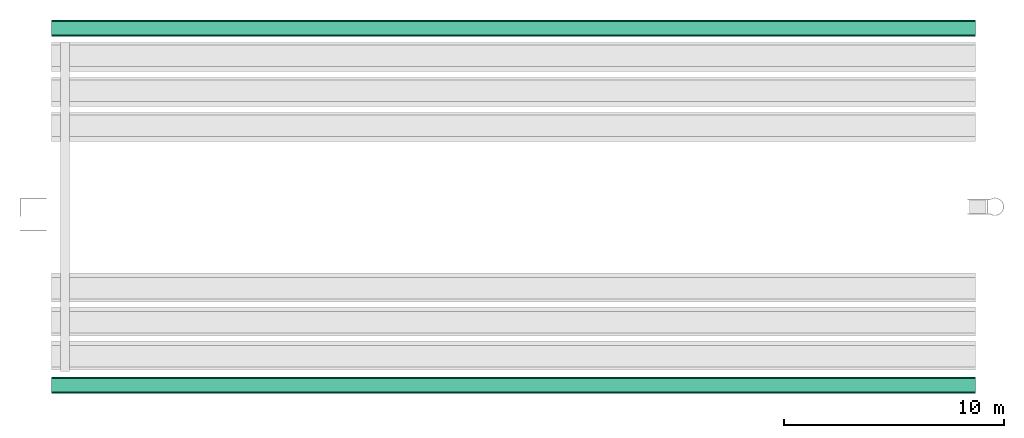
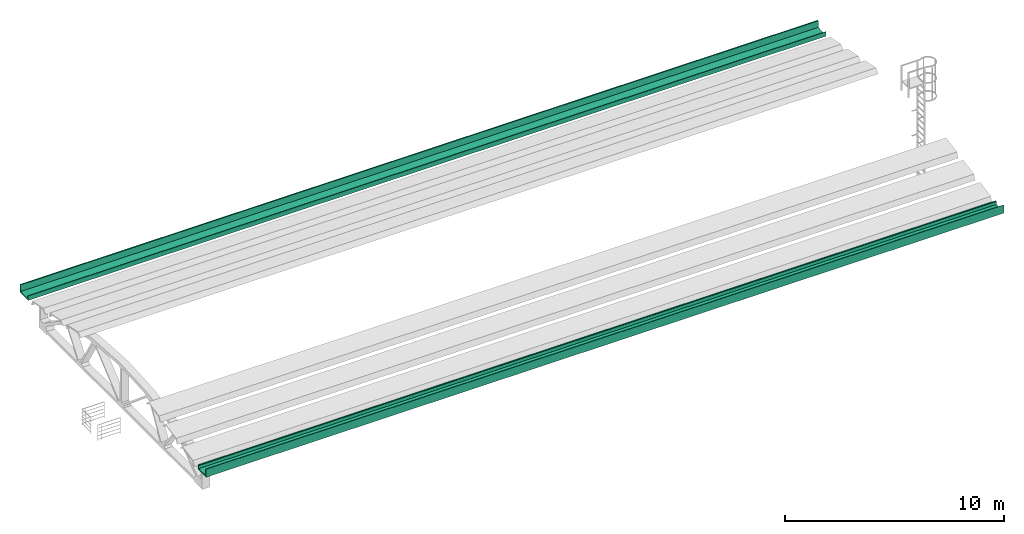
# One storey, part 2 of 3: 1 flow segment.
"""IFC2X3 building model written with IfcOpenShell, lengths in millimetres."""

from ifc_helpers import new_model, entity, si_unit, converted_unit, derived_unit, direction, frame, frame_2d, origin, place, context, subcontext, project, spatial, polyline, circle_curve, parameter, trimmed, segment, composite_curve, outline, extrude, source, transform, mapped, type_object, type_shapes, element, save


model = new_model("IFC2X3")

# Units and contexts
model_context = context("Model", 3, precision=0.01, world=origin(), true_north=direction((6.12303176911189e-17, 1.0)))
body_context = subcontext(model_context, "Body", "Model", "MODEL_VIEW")
ifc_project = project(units=[si_unit("LENGTHUNIT", "METRE", prefix="MILLI"), si_unit("AREAUNIT", "SQUARE_METRE"), si_unit("VOLUMEUNIT", "CUBIC_METRE"), converted_unit("PLANEANGLEUNIT", "DEGREE", entity("IfcRatioMeasure", 0.0174532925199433), si_unit("PLANEANGLEUNIT", "RADIAN"), dimensions=[0, 0, 0, 0, 0, 0, 0]), si_unit("MASSUNIT", "GRAM", prefix="KILO"), derived_unit("MASSDENSITYUNIT", [(si_unit("MASSUNIT", "GRAM", prefix="KILO"), 1), (si_unit("LENGTHUNIT", "METRE"), -3)]), si_unit("TIMEUNIT", "SECOND"), si_unit("FREQUENCYUNIT", "HERTZ"), si_unit("THERMODYNAMICTEMPERATUREUNIT", "DEGREE_CELSIUS"), derived_unit("THERMALTRANSMITTANCEUNIT", [(si_unit("MASSUNIT", "GRAM", prefix="KILO"), 1), (si_unit("THERMODYNAMICTEMPERATUREUNIT", "KELVIN"), -1), (si_unit("TIMEUNIT", "SECOND"), -3)]), derived_unit("VOLUMETRICFLOWRATEUNIT", [(si_unit("LENGTHUNIT", "METRE"), 3), (si_unit("TIMEUNIT", "SECOND"), -1)]), si_unit("ELECTRICCURRENTUNIT", "AMPERE"), si_unit("ELECTRICVOLTAGEUNIT", "VOLT"), si_unit("POWERUNIT", "WATT"), si_unit("FORCEUNIT", "NEWTON", prefix="KILO"), si_unit("ILLUMINANCEUNIT", "LUX"), si_unit("LUMINOUSFLUXUNIT", "LUMEN"), si_unit("LUMINOUSINTENSITYUNIT", "CANDELA"), derived_unit("USERDEFINED", [(si_unit("MASSUNIT", "GRAM", prefix="KILO"), -1), (si_unit("LENGTHUNIT", "METRE"), -2), (si_unit("TIMEUNIT", "SECOND"), 3), (si_unit("LUMINOUSFLUXUNIT", "LUMEN"), 1)]), derived_unit("LINEARVELOCITYUNIT", [(si_unit("LENGTHUNIT", "METRE"), 1), (si_unit("TIMEUNIT", "SECOND"), -1)]), si_unit("PRESSUREUNIT", "PASCAL"), derived_unit("USERDEFINED", [(si_unit("LENGTHUNIT", "METRE"), -2), (si_unit("MASSUNIT", "GRAM", prefix="KILO"), 1), (si_unit("TIMEUNIT", "SECOND"), -2)])], contexts=[model_context])

# Site, building, storey
site_placement = place(None, origin())
site = spatial("IfcSite", under=ifc_project, at=site_placement, Name="表面", CompositionType="ELEMENT")
building_placement = place(site_placement, origin())
building = spatial("IfcBuilding", under=site, at=building_placement, CompositionType="ELEMENT")
storey_placement = place(building_placement, frame((0.0, 0.0, 8500.0)))
storey = spatial("IfcBuildingStorey", under=building, at=storey_placement, Name="8.500(标顶)", CompositionType="ELEMENT", Elevation=8500.0)

# Flow segment
pipe_segment_type = type_object("IfcPipeSegmentType", Name="檐沟:檐槽", PredefinedType="GUTTER")
shared_shape = source(origin(), body_context, "Body", "SweptSolid", [
    extrude(outline(composite_curve([segment(polyline([(-374.545454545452, -202.272727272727), (375.45454545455, -202.272727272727)]), True, "CONTINUOUS"), segment(polyline([(375.45454545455, -202.272727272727), (375.45454545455, 247.727272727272)]), True, "CONTINUOUS"), segment(polyline([(375.45454545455, 247.727272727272), (365.45454545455, 247.727272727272)]), True, "CONTINUOUS"), segment(trimmed(circle_curve(frame_2d((365.45454545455, 212.727272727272), x_axis=(-1.0, 0.0)), 35.0), [parameter(270.0)], [parameter(0.0)], True, "PARAMETER"), True, "CONTINUOUS"), segment(polyline([(330.454545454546, 212.727272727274), (300.454545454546, -112.272727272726)]), True, "CONTINUOUS"), segment(polyline([(300.454545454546, -112.272727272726), (-9.54545454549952, -152.272727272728)]), True, "CONTINUOUS"), segment(polyline([(-9.54545454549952, -152.27272727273), (-299.545454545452, -132.27272727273)]), True, "CONTINUOUS"), segment(polyline([(-299.545454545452, -132.272727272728), (-319.545454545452, -2.27272727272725)]), True, "CONTINUOUS"), segment(trimmed(circle_curve(frame_2d((-369.545454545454, -2.27272727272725), x_axis=(-1.0, 0.0)), 50.0), [parameter(180.0)], [parameter(270.0)], True, "PARAMETER"), True, "CONTINUOUS"), segment(polyline([(-369.545454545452, 47.7272727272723), (-374.545454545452, 47.7272727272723)]), True, "CONTINUOUS"), segment(polyline([(-374.545454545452, 47.7272727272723), (-374.545454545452, -202.272727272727)]), True, "CONTINUOUS")], self_intersect=False)), frame((-32028.798781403, 16224.2428619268, 1669.59076581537), z_axis=(1.0, 0.0, 0.0), x_axis=(0.0, 1.0, 0.0)), (0.0, 0.0, 1.0), 42000.0),
    extrude(outline(composite_curve([segment(polyline([(-202.272727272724, -374.545454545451), (47.7272727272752, -374.545454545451)]), True, "CONTINUOUS"), segment(polyline([(47.7272727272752, -374.545454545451), (47.7272727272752, -369.545454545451)]), True, "CONTINUOUS"), segment(trimmed(circle_curve(frame_2d((-2.27272727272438, -369.545454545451), x_axis=(0.0, -1.0)), 50.0), [parameter(90.0000000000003)], [parameter(180.0)], True, "PARAMETER"), True, "CONTINUOUS"), segment(polyline([(-2.27272727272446, -319.545454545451), (-132.272727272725, -299.545454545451)]), True, "CONTINUOUS"), segment(polyline([(-132.272727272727, -299.545454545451), (-152.272727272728, -9.54545454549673)]), True, "CONTINUOUS"), segment(polyline([(-152.272727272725, -9.54545454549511), (-112.272727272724, 300.454545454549)]), True, "CONTINUOUS"), segment(polyline([(-112.272727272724, 300.454545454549), (212.727272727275, 330.45454545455)]), True, "CONTINUOUS"), segment(trimmed(circle_curve(frame_2d((212.727272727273, 365.45454545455), x_axis=(0.0, -1.0)), 35.0), [parameter(0.0)], [parameter(90.0000000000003)], True, "PARAMETER"), True, "CONTINUOUS"), segment(polyline([(247.727272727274, 365.45454545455), (247.727272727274, 375.45454545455)]), True, "CONTINUOUS"), segment(polyline([(247.727272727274, 375.45454545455), (-202.272727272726, 375.454545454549)]), True, "CONTINUOUS"), segment(polyline([(-202.272727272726, 375.454545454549), (-202.272727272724, -374.545454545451)]), True, "CONTINUOUS")], self_intersect=False)), frame((-32028.798781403, -4.84804716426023, 1669.59076581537), z_axis=(1.0, 0.0, 0.0), x_axis=(0.0, 0.0, 1.0)), (0.0, 0.0, 1.0), 42000.0),
])
type_shapes(pipe_segment_type, [shared_shape])
flow_segment_placement = place(storey_placement, origin())
element("IfcFlowSegment", 1, at=flow_segment_placement, inside=storey, type_object=pipe_segment_type, Name="檐沟:檐槽", ObjectType="檐沟:檐槽", context=body_context, shape_type="MappedRepresentation", body=[
    mapped(shared_shape, transform((0.0, 0.0, 0.0), scale=1.0)),
])

save(model, "model.ifc")
